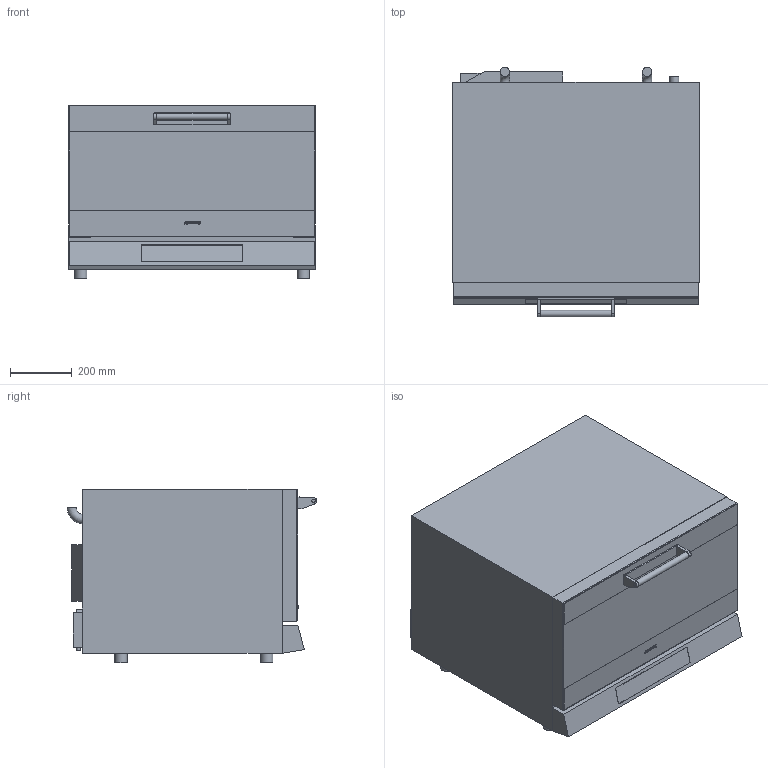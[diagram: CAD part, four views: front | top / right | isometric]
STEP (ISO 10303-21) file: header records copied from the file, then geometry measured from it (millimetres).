
FILE_DESCRIPTION(/* description */ (''),/* implementation_level */ '2;1');
FILE_NAME(/* name */ 'ALFA420EH.stp',/* time_stamp */ '2017-10-23T16:59:23+02:00',/* author */ (''),/* organization */ (''),/* preprocessor_version */ 'ST-DEVELOPER v16',/* originating_system */ 'SIEMENS PLM Software NX 11.0',/* authorisation */ '');
FILE_SCHEMA (('AUTOMOTIVE_DESIGN { 1 0 10303 214 3 1 1 1 }'));
Length unit declared in the file: millimetre
Products named in the file (1): gras42603F469ptn
Bounding box: 800 x 811 x 562.35 mm (x, y, z)
Volume: 300359481.6 mm3; surface area: 5605353.2 mm2
Topology: 26 solids, 26 shells, 217 faces, 449 edges, 298 vertices
Faces by surface type: plane 150, cylinder 54, extrusion 11, torus 2
Full cylindrical faces by diameter (mm): 4.608 x6, 10 x6, 11 x1, 11.6 x3, 21 x1, 30 x3, 40 x4
Entity records: 6016 total; most frequent: CARTESIAN_POINT 1241, DIRECTION 934, ORIENTED_EDGE 844, EDGE_CURVE 422, AXIS2_PLACEMENT_3D 317, VECTOR 300, VERTEX_POINT 298, LINE 289
